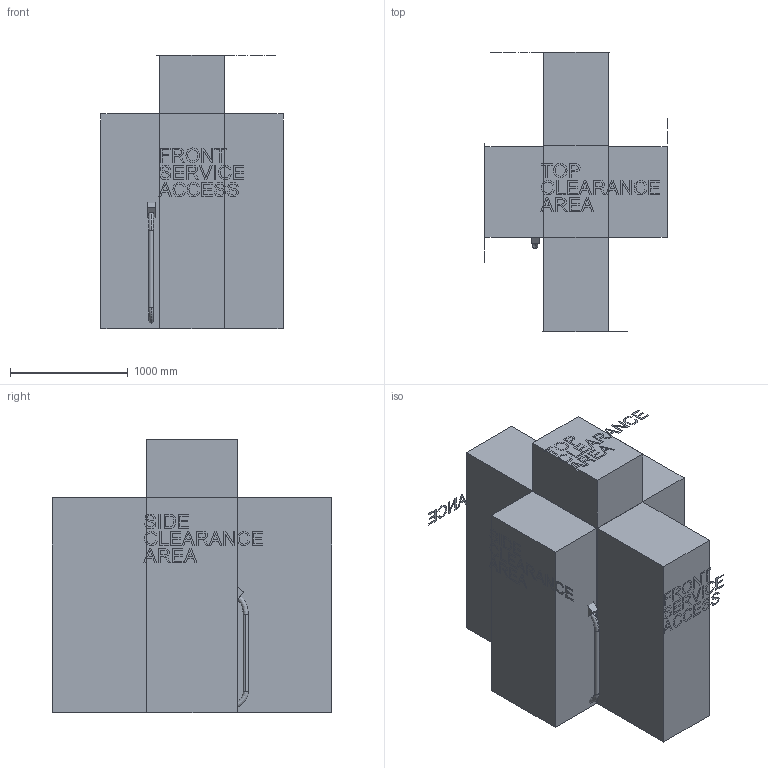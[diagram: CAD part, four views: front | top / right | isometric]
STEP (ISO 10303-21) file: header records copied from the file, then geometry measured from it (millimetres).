
FILE_DESCRIPTION((''),'2;1');
FILE_NAME('ASM0002_ASM','2024-03-14T17:02:58',('E0781489'),(''),'CREO PARAMETRIC BY PTC INC, 2020281','CREO PARAMETRIC BY PTC INC, 2020281','');
FILE_SCHEMA(('CONFIG_CONTROL_DESIGN'));
Length unit declared in the file: millimetre
Products named in the file (35): P-164001213_GMDC50-CCS_50KW__60; P-164001213_GMDC50-CCS_50KW__61; P-164001213_GMDC50-CCS_50KW__62; P-164001213_GMDC50-CCS_50KW___7; P-164001213_GMDC50-CCS_50KW___8; P-164001213_GMDC50-CCS_50KW__63_ASM; P-164001213_GMDC50-CCS_50KW__64; P-164001213_GMDC50-CCS_50KW__65; P-164001213_GMDC50-CCS_50KW__66; P-164001213_GMDC50-CCS_50KW__67; P-164001213_GMDC50-CCS_50KW__68; P-164001213_GMDC50-CCS_50KW__69; P-164001213_GMDC50-CCS_50KW__70; P-164001213_GMDC50-CCS_50KW__71; P-164001213_GMDC50-CCS_50KW__72; P-164001213_GMDC50-CCS_50KW__73; P-164001213_GMDC50-CCS_50KW__74; P-164001213_GMDC50-CCS_50KW__75; P-164001213_GMDC50-CCS_50KW__76; P-164001213_GMDC50-CCS_50KW___9; P-164001213_GMDC50-CCS_50KW__78; P-164001213_GMDC50-CCS_50KW__77_ASM; P-164001213_GMDC50-CCS_50KW__79; P-164001213_GMDC50-CCS_50KW__80; P-164001213_GMDC50-CCS_50KW__81; P-164001213_GMDC50-CCS_50KW__82; P-164001213_GMDC50-CCS_50KW__83; P-164001213_GMDC50-CCS_50KW__84; P-164001213_GMDC50-CCS_50KW__85; P-164001213_GMDC50-CCS_50KW__86; P-164001213_GMDC50-CCS_50KW__87; P-164001213_GMDC50-CCS_50KW__88; P-164001213_GMDC50-CCS_50KW__89; P-164001213_GMDC50-CCS_50KW__90; ASM0002_ASM
Assembly tree (34 placements, depth 3):
  ASM0002_ASM
    P-164001213_GMDC50-CCS_50KW__60
    P-164001213_GMDC50-CCS_50KW__61
    P-164001213_GMDC50-CCS_50KW__62
    P-164001213_GMDC50-CCS_50KW__63_ASM
      P-164001213_GMDC50-CCS_50KW___7
      P-164001213_GMDC50-CCS_50KW___8
    P-164001213_GMDC50-CCS_50KW__64
    P-164001213_GMDC50-CCS_50KW__65
    P-164001213_GMDC50-CCS_50KW__66
    P-164001213_GMDC50-CCS_50KW__67
    P-164001213_GMDC50-CCS_50KW__68
    P-164001213_GMDC50-CCS_50KW__69
    P-164001213_GMDC50-CCS_50KW__70
    P-164001213_GMDC50-CCS_50KW__71
    P-164001213_GMDC50-CCS_50KW__72
    P-164001213_GMDC50-CCS_50KW__73
    P-164001213_GMDC50-CCS_50KW__74
    P-164001213_GMDC50-CCS_50KW__75
    P-164001213_GMDC50-CCS_50KW__76
    P-164001213_GMDC50-CCS_50KW__77_ASM
      P-164001213_GMDC50-CCS_50KW___9
      P-164001213_GMDC50-CCS_50KW__78
    P-164001213_GMDC50-CCS_50KW__79
    P-164001213_GMDC50-CCS_50KW__80
    P-164001213_GMDC50-CCS_50KW__81
    P-164001213_GMDC50-CCS_50KW__82
    P-164001213_GMDC50-CCS_50KW__83
    P-164001213_GMDC50-CCS_50KW__84
    P-164001213_GMDC50-CCS_50KW__85
    P-164001213_GMDC50-CCS_50KW__86
    P-164001213_GMDC50-CCS_50KW__87
    P-164001213_GMDC50-CCS_50KW__88
    P-164001213_GMDC50-CCS_50KW__89
    P-164001213_GMDC50-CCS_50KW__90
Bounding box: 1550 x 2378 x 2330.07 mm (x, y, z)
Volume: 3934097281.4 mm3; surface area: 31969897.4 mm2
Topology: 27 solids, 112 shells, 320 faces, 2252 edges, 2078 vertices
Faces by surface type: plane 279, cylinder 37, bspline 4
Entity records: 22872 total; most frequent: CARTESIAN_POINT 5751, DIRECTION 3080, ORIENTED_EDGE 2778, EDGE_CURVE 2252, VECTOR 2162, LINE 2162, VERTEX_POINT 2078, AXIS2_PLACEMENT_3D 459
